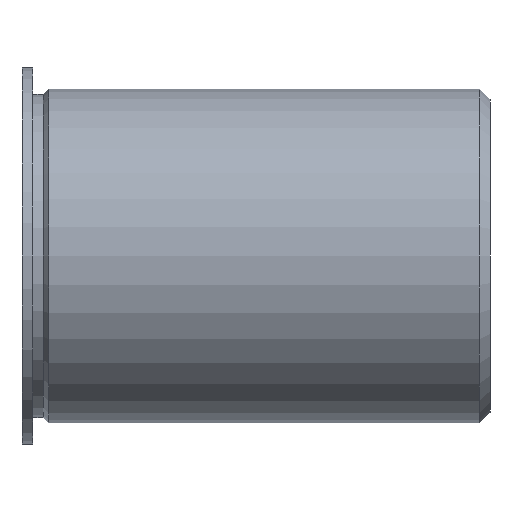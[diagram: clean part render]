
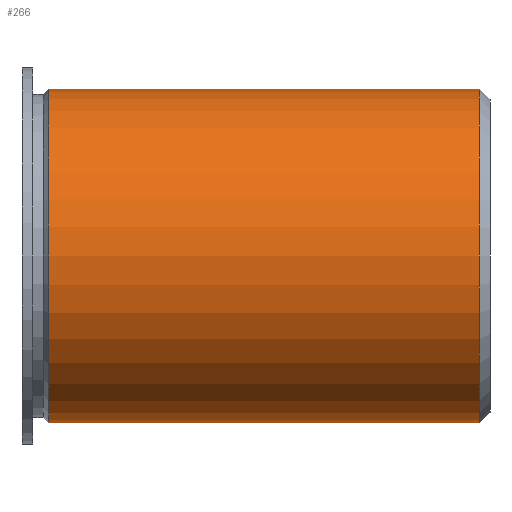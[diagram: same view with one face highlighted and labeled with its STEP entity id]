
A CAD part, front view. The second image highlights one B-rep face of the part: STEP entity #266.
In plain terms, the highlighted cylindrical face has radius 3.969 mm (diameter 7.938 mm), a partial arc.
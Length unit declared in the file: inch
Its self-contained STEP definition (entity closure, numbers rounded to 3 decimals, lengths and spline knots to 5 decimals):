
#11 = VERTEX_POINT ( 'NONE', #220 ) ;
#17 = ORIENTED_EDGE ( 'NONE', *, *, #410, .F. ) ;
#24 = FACE_OUTER_BOUND ( 'NONE', #301, .T. ) ;
#45 = AXIS2_PLACEMENT_3D ( 'NONE', #115, #113, #94 ) ;
#94 = DIRECTION ( 'NONE',  ( 0., 0., 1. ) ) ;
#110 = AXIS2_PLACEMENT_3D ( 'NONE', #432, #491, #446 ) ;
#113 = DIRECTION ( 'NONE',  ( -1., 0., 0. ) ) ;
#115 = CARTESIAN_POINT ( 'NONE',  ( -2.18824, 3.72648, 0. ) ) ;
#133 = ORIENTED_EDGE ( 'NONE', *, *, #299, .T. ) ;
#137 = LINE ( 'NONE', #313, #256 ) ;
#148 = VERTEX_POINT ( 'NONE', #370 ) ;
#149 = DIRECTION ( 'NONE',  ( -1., 0., 0. ) ) ;
#213 = LINE ( 'NONE', #345, #452 ) ;
#220 = CARTESIAN_POINT ( 'NONE',  ( -2.18824, 3.72648, -0.15625 ) ) ;
#226 = CYLINDRICAL_SURFACE ( 'NONE', #110, 0.15625 ) ;
#248 = EDGE_CURVE ( 'NONE', #349, #11, #137, .T. ) ;
#256 = VECTOR ( 'NONE', #368, 39.37008 ) ;
#266 = ADVANCED_FACE ( 'NONE', ( #24 ), #226, .T. ) ;
#299 = EDGE_CURVE ( 'NONE', #344, #148, #213, .T. ) ;
#301 = EDGE_LOOP ( 'NONE', ( #326, #423, #133, #17 ) ) ;
#313 = CARTESIAN_POINT ( 'NONE',  ( -2.21324, 3.72648, -0.15625 ) ) ;
#326 = ORIENTED_EDGE ( 'NONE', *, *, #248, .F. ) ;
#333 = DIRECTION ( 'NONE',  ( -1., 0., 0. ) ) ;
#344 = VERTEX_POINT ( 'NONE', #544 ) ;
#345 = CARTESIAN_POINT ( 'NONE',  ( -2.21324, 3.72648, 0.15625 ) ) ;
#349 = VERTEX_POINT ( 'NONE', #479 ) ;
#368 = DIRECTION ( 'NONE',  ( -1., 0., 0. ) ) ;
#369 = CARTESIAN_POINT ( 'NONE',  ( -1.78524, 3.72648, 0. ) ) ;
#370 = CARTESIAN_POINT ( 'NONE',  ( -2.18824, 3.72648, 0.15625 ) ) ;
#374 = CIRCLE ( 'NONE', #45, 0.15625 ) ;
#410 = EDGE_CURVE ( 'NONE', #11, #148, #374, .T. ) ;
#423 = ORIENTED_EDGE ( 'NONE', *, *, #467, .T. ) ;
#432 = CARTESIAN_POINT ( 'NONE',  ( -2.21324, 3.72648, 0. ) ) ;
#446 = DIRECTION ( 'NONE',  ( 0., 0., 1. ) ) ;
#451 = CIRCLE ( 'NONE', #500, 0.15625 ) ;
#452 = VECTOR ( 'NONE', #333, 39.37008 ) ;
#467 = EDGE_CURVE ( 'NONE', #349, #344, #451, .T. ) ;
#479 = CARTESIAN_POINT ( 'NONE',  ( -1.78524, 3.72648, -0.15625 ) ) ;
#491 = DIRECTION ( 'NONE',  ( -1., 0., 0. ) ) ;
#500 = AXIS2_PLACEMENT_3D ( 'NONE', #369, #149, #558 ) ;
#544 = CARTESIAN_POINT ( 'NONE',  ( -1.78524, 3.72648, 0.15625 ) ) ;
#558 = DIRECTION ( 'NONE',  ( 0., 0., 1. ) ) ;
